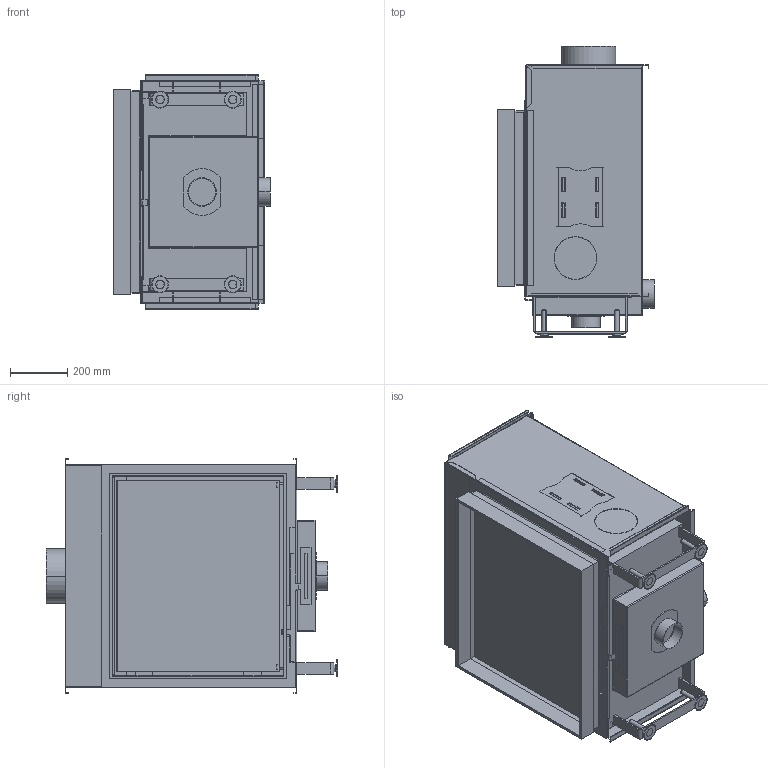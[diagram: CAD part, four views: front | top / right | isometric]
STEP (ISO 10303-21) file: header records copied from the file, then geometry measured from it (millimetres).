
FILE_DESCRIPTION(('Creo Elements/Direct Modeling STEP Export'),'2;1');
FILE_NAME('metalfire_CITIZEN 700-60 WHE 1S.stp','2020-02-12T10:21:49',(''),(''),'PTC Creo Elements/Direct Modeling STEP processor for AP214 (Solid Model)','PTC Creo Elements/Direct Modeling 19.0B 21-Mar-2015 (C) Parametric Technology GmbH','');
FILE_SCHEMA(('AUTOMOTIVE_DESIGN { 1 0 10303 214 1 1 1 1 }'));
Length unit declared in the file: millimetre
Products named in the file (8): GalvaCover; CITIZEN_MF_700-60_WHE_1S_RECHTS_chassis; Standard_frame; Door; CTZ_700-60_1S; FinishingFrame; Options; CITIZEN_MF_700-60_WHE_1S_RECHTS
Assembly tree (7 placements, depth 3):
  CITIZEN_MF_700-60_WHE_1S_RECHTS
    Options
      FinishingFrame
    CTZ_700-60_1S
      Door
      Standard_frame
      CITIZEN_MF_700-60_WHE_1S_RECHTS_chassis
      GalvaCover
Bounding box: 548 x 1021 x 823 mm (x, y, z)
Volume: 101320775.6 mm3; surface area: 10014531.9 mm2
Topology: 5 solids, 11 shells, 1259 faces, 3557 edges, 2321 vertices
Faces by surface type: plane 821, cylinder 346, cone 56, bspline 30, sphere 4, torus 2
Entity records: 46625 total; most frequent: CARTESIAN_POINT 13834, ORIENTED_EDGE 7106, DIRECTION 6300, EDGE_CURVE 3551, VECTOR 2570, LINE 2570, VERTEX_POINT 2321, AXIS2_PLACEMENT_3D 1865
